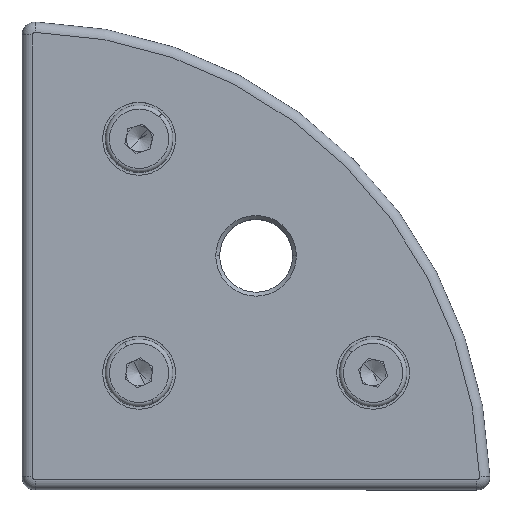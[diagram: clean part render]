
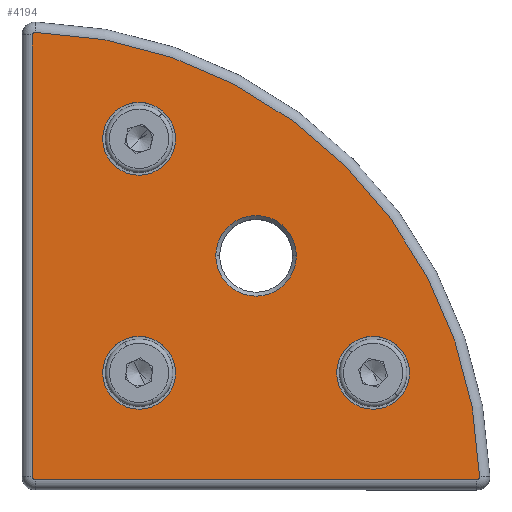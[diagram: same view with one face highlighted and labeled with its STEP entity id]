
A CAD part, top view. The second image highlights one B-rep face of the part: STEP entity #4194.
In plain terms, the highlighted planar face has unit normal (0, 0, 1).
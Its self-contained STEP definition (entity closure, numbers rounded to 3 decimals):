
#20 = DIRECTION ( 'NONE',  ( 1., 0., 0. ) ) ;
#59 = EDGE_LOOP ( 'NONE', ( #4296, #4065, #1280, #2240, #1543, #2679, #2032 ) ) ;
#110 = VERTEX_POINT ( 'NONE', #4162 ) ;
#136 = CARTESIAN_POINT ( 'NONE',  ( -8.664, 6.355, 3.686 ) ) ;
#156 = CIRCLE ( 'NONE', #3047, 88. ) ;
#186 = CARTESIAN_POINT ( 'NONE',  ( 21.586, -16.145, 3.686 ) ) ;
#268 = DIRECTION ( 'NONE',  ( 0., 0., 1. ) ) ;
#305 = CARTESIAN_POINT ( 'NONE',  ( -30.414, 28.855, 3.686 ) ) ;
#314 = EDGE_CURVE ( 'NONE', #1401, #974, #2591, .T. ) ;
#367 = DIRECTION ( 'NONE',  ( 0., -1., 0. ) ) ;
#407 = VECTOR ( 'NONE', #367, 1000. ) ;
#478 = ORIENTED_EDGE ( 'NONE', *, *, #1784, .F. ) ;
#494 = CARTESIAN_POINT ( 'NONE',  ( 0.288, -36.645, 3.686 ) ) ;
#517 = DIRECTION ( 'NONE',  ( 1., 0., 0. ) ) ;
#536 = CIRCLE ( 'NONE', #3439, 0.5 ) ;
#616 = CIRCLE ( 'NONE', #4071, 7. ) ;
#711 = AXIS2_PLACEMENT_3D ( 'NONE', #2248, #1085, #3766 ) ;
#727 = CARTESIAN_POINT ( 'NONE',  ( 21.586, -16.145, 3.686 ) ) ;
#895 = CIRCLE ( 'NONE', #1138, 0.5 ) ;
#902 = DIRECTION ( 'NONE',  ( 1., 0., 0. ) ) ;
#966 = EDGE_CURVE ( 'NONE', #4499, #3655, #2612, .T. ) ;
#974 = VERTEX_POINT ( 'NONE', #3579 ) ;
#978 = AXIS2_PLACEMENT_3D ( 'NONE', #2674, #2374, #3018 ) ;
#997 = DIRECTION ( 'NONE',  ( 1., 0., 0. ) ) ;
#1085 = DIRECTION ( 'NONE',  ( 0., 0., 1. ) ) ;
#1100 = EDGE_CURVE ( 'NONE', #4486, #4646, #2294, .T. ) ;
#1127 = ORIENTED_EDGE ( 'NONE', *, *, #3458, .F. ) ;
#1138 = AXIS2_PLACEMENT_3D ( 'NONE', #3785, #3013, #2219 ) ;
#1140 = DIRECTION ( 'NONE',  ( 0., 0., 1. ) ) ;
#1151 = DIRECTION ( 'NONE',  ( 0., 0., -1. ) ) ;
#1174 = DIRECTION ( 'NONE',  ( 0., 0., -1. ) ) ;
#1182 = LINE ( 'NONE', #2278, #407 ) ;
#1184 = ORIENTED_EDGE ( 'NONE', *, *, #2138, .F. ) ;
#1222 = DIRECTION ( 'NONE',  ( 1., 0., 0. ) ) ;
#1248 = CARTESIAN_POINT ( 'NONE',  ( -45.914, -38.645, 3.686 ) ) ;
#1280 = ORIENTED_EDGE ( 'NONE', *, *, #1100, .F. ) ;
#1319 = DIRECTION ( 'NONE',  ( 1., 0., 0. ) ) ;
#1326 = EDGE_LOOP ( 'NONE', ( #1127, #3470 ) ) ;
#1370 = CIRCLE ( 'NONE', #4330, 7. ) ;
#1377 = CARTESIAN_POINT ( 'NONE',  ( -0.914, 6.355, 3.686 ) ) ;
#1401 = VERTEX_POINT ( 'NONE', #136 ) ;
#1489 = FACE_BOUND ( 'NONE', #1843, .T. ) ;
#1523 = VERTEX_POINT ( 'NONE', #4811 ) ;
#1542 = CARTESIAN_POINT ( 'NONE',  ( 14.586, -16.145, 3.686 ) ) ;
#1543 = ORIENTED_EDGE ( 'NONE', *, *, #2725, .F. ) ;
#1595 = DIRECTION ( 'NONE',  ( 1., 0., 0. ) ) ;
#1603 = VERTEX_POINT ( 'NONE', #4035 ) ;
#1727 = EDGE_CURVE ( 'NONE', #4486, #4196, #1182, .T. ) ;
#1750 = EDGE_CURVE ( 'NONE', #974, #1401, #3784, .T. ) ;
#1784 = EDGE_CURVE ( 'NONE', #4658, #4508, #2111, .T. ) ;
#1820 = EDGE_LOOP ( 'NONE', ( #4286, #2713 ) ) ;
#1843 = EDGE_LOOP ( 'NONE', ( #3175, #3734 ) ) ;
#1878 = FACE_BOUND ( 'NONE', #1326, .T. ) ;
#1921 = DIRECTION ( 'NONE',  ( 1., 0., 0. ) ) ;
#1925 = CIRCLE ( 'NONE', #4709, 7. ) ;
#1939 = CARTESIAN_POINT ( 'NONE',  ( -16.414, -16.145, 3.686 ) ) ;
#1975 = CARTESIAN_POINT ( 'NONE',  ( -0.914, 6.355, 3.686 ) ) ;
#2003 = LINE ( 'NONE', #494, #3747 ) ;
#2032 = ORIENTED_EDGE ( 'NONE', *, *, #2727, .F. ) ;
#2059 = EDGE_CURVE ( 'NONE', #1523, #2761, #2003, .T. ) ;
#2111 = CIRCLE ( 'NONE', #978, 7. ) ;
#2136 = CARTESIAN_POINT ( 'NONE',  ( -30.414, -16.145, 3.686 ) ) ;
#2138 = EDGE_CURVE ( 'NONE', #4508, #4658, #3902, .T. ) ;
#2219 = DIRECTION ( 'NONE',  ( 1., 0., 0. ) ) ;
#2240 = ORIENTED_EDGE ( 'NONE', *, *, #1727, .T. ) ;
#2248 = CARTESIAN_POINT ( 'NONE',  ( 0.288, 7.866, 3.686 ) ) ;
#2270 = AXIS2_PLACEMENT_3D ( 'NONE', #1377, #3256, #997 ) ;
#2278 = CARTESIAN_POINT ( 'NONE',  ( -43.914, 7.866, 3.686 ) ) ;
#2285 = DIRECTION ( 'NONE',  ( 1., 0., 0. ) ) ;
#2294 = CIRCLE ( 'NONE', #4603, 0.5 ) ;
#2296 = PLANE ( 'NONE',  #711 ) ;
#2301 = EDGE_CURVE ( 'NONE', #3655, #4499, #1925, .T. ) ;
#2374 = DIRECTION ( 'NONE',  ( 0., 0., 1. ) ) ;
#2485 = CIRCLE ( 'NONE', #4954, 0.5 ) ;
#2591 = CIRCLE ( 'NONE', #2270, 7.75 ) ;
#2611 = DIRECTION ( 'NONE',  ( 0., 0., -1. ) ) ;
#2612 = CIRCLE ( 'NONE', #4524, 7. ) ;
#2674 = CARTESIAN_POINT ( 'NONE',  ( -23.414, -16.145, 3.686 ) ) ;
#2679 = ORIENTED_EDGE ( 'NONE', *, *, #2059, .T. ) ;
#2682 = CARTESIAN_POINT ( 'NONE',  ( -43.414, 48.819, 3.686 ) ) ;
#2699 = CARTESIAN_POINT ( 'NONE',  ( -43.414, -36.145, 3.686 ) ) ;
#2713 = ORIENTED_EDGE ( 'NONE', *, *, #966, .F. ) ;
#2725 = EDGE_CURVE ( 'NONE', #1523, #4196, #2485, .T. ) ;
#2727 = EDGE_CURVE ( 'NONE', #110, #2761, #536, .T. ) ;
#2761 = VERTEX_POINT ( 'NONE', #3007 ) ;
#2775 = DIRECTION ( 'NONE',  ( 1., 0., 0. ) ) ;
#2840 = EDGE_CURVE ( 'NONE', #3232, #4646, #156, .T. ) ;
#2862 = FACE_BOUND ( 'NONE', #1820, .T. ) ;
#2941 = EDGE_CURVE ( 'NONE', #4875, #1603, #616, .T. ) ;
#2974 = DIRECTION ( 'NONE',  ( 0., 0., 1. ) ) ;
#3007 = CARTESIAN_POINT ( 'NONE',  ( 41.55, -36.645, 3.686 ) ) ;
#3013 = DIRECTION ( 'NONE',  ( 0., 0., -1. ) ) ;
#3018 = DIRECTION ( 'NONE',  ( 1., 0., 0. ) ) ;
#3047 = AXIS2_PLACEMENT_3D ( 'NONE', #1248, #3967, #1222 ) ;
#3175 = ORIENTED_EDGE ( 'NONE', *, *, #1750, .F. ) ;
#3232 = VERTEX_POINT ( 'NONE', #4741 ) ;
#3256 = DIRECTION ( 'NONE',  ( 0., 0., 1. ) ) ;
#3260 = CARTESIAN_POINT ( 'NONE',  ( -43.4, 49.319, 3.686 ) ) ;
#3399 = EDGE_CURVE ( 'NONE', #3232, #110, #895, .T. ) ;
#3439 = AXIS2_PLACEMENT_3D ( 'NONE', #4503, #1151, #2285 ) ;
#3442 = CARTESIAN_POINT ( 'NONE',  ( -43.914, -36.145, 3.686 ) ) ;
#3458 = EDGE_CURVE ( 'NONE', #1603, #4875, #1370, .T. ) ;
#3470 = ORIENTED_EDGE ( 'NONE', *, *, #2941, .F. ) ;
#3519 = DIRECTION ( 'NONE',  ( 1., 0., 0. ) ) ;
#3579 = CARTESIAN_POINT ( 'NONE',  ( 6.836, 6.355, 3.686 ) ) ;
#3644 = DIRECTION ( 'NONE',  ( 0., 0., 1. ) ) ;
#3655 = VERTEX_POINT ( 'NONE', #4177 ) ;
#3734 = ORIENTED_EDGE ( 'NONE', *, *, #314, .F. ) ;
#3747 = VECTOR ( 'NONE', #3519, 1000. ) ;
#3766 = DIRECTION ( 'NONE',  ( 1., 0., 0. ) ) ;
#3774 = CARTESIAN_POINT ( 'NONE',  ( -43.914, 48.819, 3.686 ) ) ;
#3784 = CIRCLE ( 'NONE', #4667, 7.75 ) ;
#3785 = CARTESIAN_POINT ( 'NONE',  ( 41.55, -36.145, 3.686 ) ) ;
#3794 = CARTESIAN_POINT ( 'NONE',  ( -23.414, 28.855, 3.686 ) ) ;
#3808 = FACE_BOUND ( 'NONE', #4169, .T. ) ;
#3828 = AXIS2_PLACEMENT_3D ( 'NONE', #3893, #3925, #517 ) ;
#3893 = CARTESIAN_POINT ( 'NONE',  ( -23.414, -16.145, 3.686 ) ) ;
#3902 = CIRCLE ( 'NONE', #3828, 7. ) ;
#3925 = DIRECTION ( 'NONE',  ( 0., 0., 1. ) ) ;
#3967 = DIRECTION ( 'NONE',  ( 0., 0., 1. ) ) ;
#4035 = CARTESIAN_POINT ( 'NONE',  ( 28.586, -16.145, 3.686 ) ) ;
#4065 = ORIENTED_EDGE ( 'NONE', *, *, #2840, .T. ) ;
#4071 = AXIS2_PLACEMENT_3D ( 'NONE', #186, #3644, #1319 ) ;
#4112 = DIRECTION ( 'NONE',  ( 1., 0., 0. ) ) ;
#4162 = CARTESIAN_POINT ( 'NONE',  ( 42.05, -36.145, 3.686 ) ) ;
#4169 = EDGE_LOOP ( 'NONE', ( #1184, #478 ) ) ;
#4177 = CARTESIAN_POINT ( 'NONE',  ( -16.414, 28.855, 3.686 ) ) ;
#4194 = ADVANCED_FACE ( 'NONE', ( #2862, #3808, #1878, #1489, #4923 ), #2296, .T. ) ;
#4196 = VERTEX_POINT ( 'NONE', #3442 ) ;
#4286 = ORIENTED_EDGE ( 'NONE', *, *, #2301, .F. ) ;
#4296 = ORIENTED_EDGE ( 'NONE', *, *, #3399, .F. ) ;
#4328 = DIRECTION ( 'NONE',  ( 0., 0., 1. ) ) ;
#4330 = AXIS2_PLACEMENT_3D ( 'NONE', #727, #268, #1921 ) ;
#4486 = VERTEX_POINT ( 'NONE', #3774 ) ;
#4499 = VERTEX_POINT ( 'NONE', #305 ) ;
#4503 = CARTESIAN_POINT ( 'NONE',  ( 41.55, -36.145, 3.686 ) ) ;
#4508 = VERTEX_POINT ( 'NONE', #1939 ) ;
#4524 = AXIS2_PLACEMENT_3D ( 'NONE', #4827, #4328, #902 ) ;
#4603 = AXIS2_PLACEMENT_3D ( 'NONE', #2682, #1174, #2775 ) ;
#4646 = VERTEX_POINT ( 'NONE', #3260 ) ;
#4658 = VERTEX_POINT ( 'NONE', #2136 ) ;
#4667 = AXIS2_PLACEMENT_3D ( 'NONE', #1975, #1140, #1595 ) ;
#4709 = AXIS2_PLACEMENT_3D ( 'NONE', #3794, #2974, #4112 ) ;
#4741 = CARTESIAN_POINT ( 'NONE',  ( 42.05, -36.131, 3.686 ) ) ;
#4811 = CARTESIAN_POINT ( 'NONE',  ( -43.414, -36.645, 3.686 ) ) ;
#4827 = CARTESIAN_POINT ( 'NONE',  ( -23.414, 28.855, 3.686 ) ) ;
#4875 = VERTEX_POINT ( 'NONE', #1542 ) ;
#4923 = FACE_OUTER_BOUND ( 'NONE', #59, .T. ) ;
#4954 = AXIS2_PLACEMENT_3D ( 'NONE', #2699, #2611, #20 ) ;
